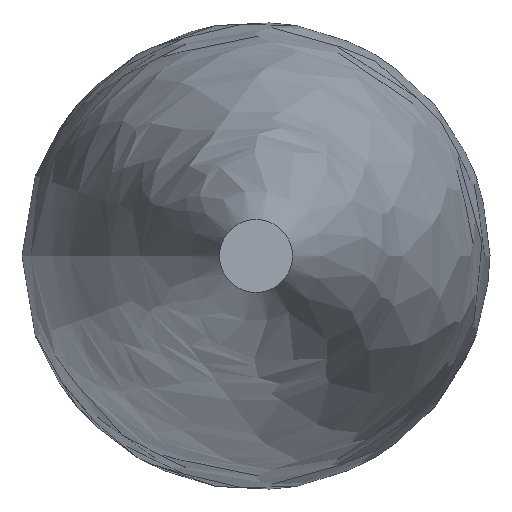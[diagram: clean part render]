
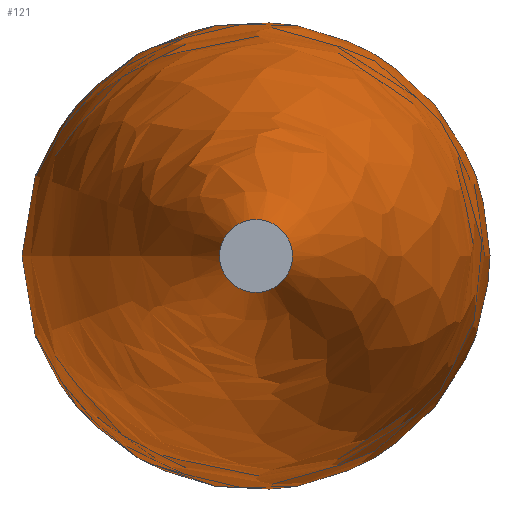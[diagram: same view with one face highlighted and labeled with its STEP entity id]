
A CAD part, left-side view. The second image highlights one B-rep face of the part: STEP entity #121.
In plain terms, the highlighted face is a revolution surface.
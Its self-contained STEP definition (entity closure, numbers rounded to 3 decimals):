
#68=CARTESIAN_POINT('',(588.,79.2,0.0));
#69=CARTESIAN_POINT('',(566.188,76.139,0.0));
#70=CARTESIAN_POINT('',(521.103,90.227,0.0));
#71=CARTESIAN_POINT('',(467.315,83.651,0.0));
#72=CARTESIAN_POINT('',(399.801,80.706,0.0));
#73=CARTESIAN_POINT('',(349.784,75.462,0.0));
#74=CARTESIAN_POINT('',(299.576,68.436,0.0));
#75=CARTESIAN_POINT('',(250.325,52.493,0.0));
#76=CARTESIAN_POINT('',(181.941,45.303,0.0));
#77=CARTESIAN_POINT('',(128.221,29.04,0.0));
#78=CARTESIAN_POINT('',(82.951,21.653,0.0));
#79=CARTESIAN_POINT('',(60.,13.3,0.0));
#80=B_SPLINE_CURVE_WITH_KNOTS('',4,(#68,#69,#70,#71,#72,#73,#74,#75,#76,#77,#78,#79),.UNSPECIFIED.,.F.,.U.,(5,1,1,1,1,1,1,1,5),(0.0,0.219,0.311,0.404,0.497,0.59,0.683,0.776,1.0),.UNSPECIFIED.);
#81=CARTESIAN_POINT('',(60.0,0.,0.0));
#82=DIRECTION('',(-1.0,0.,0.0));
#83=AXIS1_PLACEMENT('',#81,#82);
#84=SURFACE_OF_REVOLUTION('',#80,#83);
#85=CARTESIAN_POINT('',(60.0,13.3,0.0));
#86=VERTEX_POINT('',#85);
#87=CARTESIAN_POINT('',(588.0,79.2,0.0));
#88=VERTEX_POINT('',#87);
#89=CARTESIAN_POINT('',(60.,13.3,0.0));
#90=CARTESIAN_POINT('',(82.951,21.653,0.0));
#91=CARTESIAN_POINT('',(128.221,29.04,0.0));
#92=CARTESIAN_POINT('',(181.941,45.303,0.0));
#93=CARTESIAN_POINT('',(250.325,52.493,0.0));
#94=CARTESIAN_POINT('',(299.576,68.436,0.0));
#95=CARTESIAN_POINT('',(349.784,75.462,0.0));
#96=CARTESIAN_POINT('',(399.801,80.706,0.0));
#97=CARTESIAN_POINT('',(467.315,83.651,0.0));
#98=CARTESIAN_POINT('',(521.103,90.227,0.0));
#99=CARTESIAN_POINT('',(566.188,76.139,0.0));
#100=CARTESIAN_POINT('',(588.,79.2,0.0));
#101=B_SPLINE_CURVE_WITH_KNOTS('',4,(#89,#90,#91,#92,#93,#94,#95,#96,#97,#98,#99,#100),.UNSPECIFIED.,.F.,.U.,(5,1,1,1,1,1,1,1,5),(0.0,0.224,0.317,0.41,0.503,0.596,0.689,0.781,1.0),.UNSPECIFIED.);
#102=EDGE_CURVE('',#86,#88,#101,.T.);
#103=ORIENTED_EDGE('',*,*,#102,.T.);
#104=CARTESIAN_POINT('',(588.0,0.,0.0));
#105=DIRECTION('',(1.0,0.0,0.0));
#106=DIRECTION('',(0.0,1.0,0.0));
#107=AXIS2_PLACEMENT_3D('',#104,#105,#106);
#108=CIRCLE('',#107,79.2);
#109=EDGE_CURVE('',#88,#88,#108,.T.);
#110=ORIENTED_EDGE('',*,*,#109,.F.);
#111=ORIENTED_EDGE('',*,*,#102,.F.);
#112=CARTESIAN_POINT('',(60.0,0.,0.0));
#113=DIRECTION('',(1.0,0.0,0.0));
#114=DIRECTION('',(0.0,1.0,0.0));
#115=AXIS2_PLACEMENT_3D('',#112,#113,#114);
#116=CIRCLE('',#115,13.3);
#117=EDGE_CURVE('',#86,#86,#116,.T.);
#118=ORIENTED_EDGE('',*,*,#117,.T.);
#119=EDGE_LOOP('',(#103,#110,#111,#118));
#120=FACE_OUTER_BOUND('',#119,.T.);
#121=ADVANCED_FACE('',(#120),#84,.T.);
